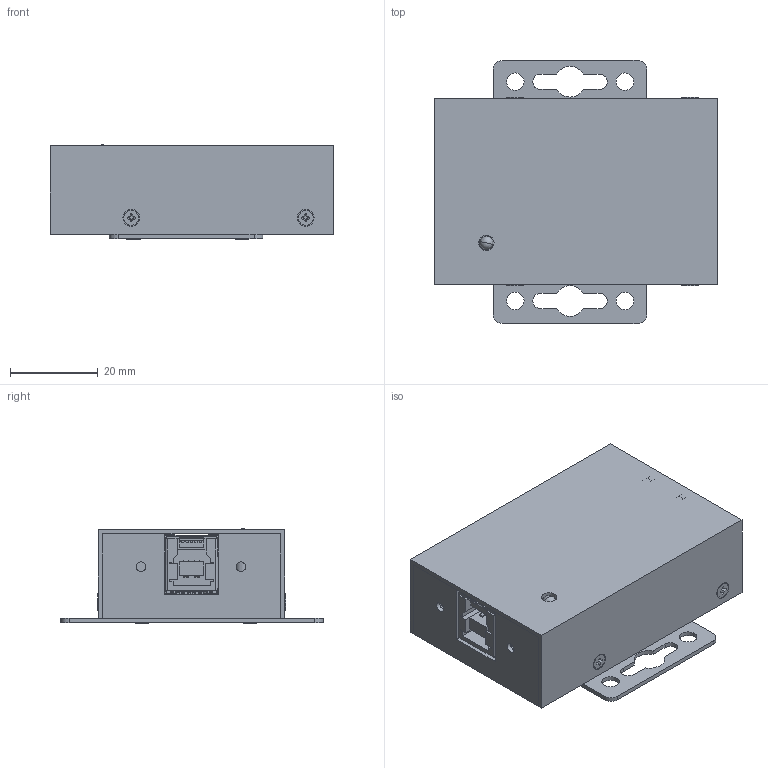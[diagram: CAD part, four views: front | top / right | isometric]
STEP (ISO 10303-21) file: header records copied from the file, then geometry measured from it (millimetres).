
FILE_DESCRIPTION(('FreeCAD Model'),'2;1');
FILE_NAME('Open CASCADE Shape Model','2025-05-20T12:54:11',(''),(''), 'Open CASCADE STEP processor 7.8','FreeCAD','Unknown');
FILE_SCHEMA(('AUTOMOTIVE_DESIGN { 1 0 10303 214 1 1 1 1 }'));
Length unit declared in the file: millimetre
Products named in the file (17): Unnamed; Case_down_1321; EX-1321_pcb; LED_green; 72w2466_1-406541-6; usb3_a-usb3_b; Case_up_1321; schraube_iso_7045-m2x5-4_8-h; dineniso7046-2m2x38_8h1#003; dineniso7046-2m2x38_8h1#004; dineniso7046-2m2x38_8h1#002; dineniso7046-2m2x38_8h1#001; Wandbefestigung_1321; schraube_iso_7046-1-m1_6x3-4_8-z#004; schraube_iso_7046-1-m1_6x3-4_8-z#002; schraube_iso_7046-1-m1_6x3-4_8-z#001; schraube_iso_7046-1-m1_6x3-4_8-z#003
Assembly tree (16 placements, depth 2):
  Unnamed
    Case_down_1321
    EX-1321_pcb
    LED_green
    72w2466_1-406541-6
    usb3_a-usb3_b
    Case_up_1321
    schraube_iso_7045-m2x5-4_8-h
    dineniso7046-2m2x38_8h1#003
    dineniso7046-2m2x38_8h1#004
    dineniso7046-2m2x38_8h1#002
    dineniso7046-2m2x38_8h1#001
    Wandbefestigung_1321
    schraube_iso_7046-1-m1_6x3-4_8-z#004
    schraube_iso_7046-1-m1_6x3-4_8-z#002
    schraube_iso_7046-1-m1_6x3-4_8-z#001
    schraube_iso_7046-1-m1_6x3-4_8-z#003
Bounding box: 64.7 x 60 x 21.57 mm (x, y, z)
Volume: 19536.1 mm3; surface area: 34519.8 mm2
Topology: 20 solids, 20 shells, 1501 faces, 4133 edges, 2707 vertices
Faces by surface type: plane 979, cylinder 353, cone 101, torus 60, sphere 4, bspline 4
Full cylindrical faces by diameter (mm): 2.2 x2, 2.4 x24, 2.6 x2, 3 x1, 3.5 x1, 4 x13, 5.2 x1
Entity records: 52836 total; most frequent: CARTESIAN_POINT 9777, ORIENTED_EDGE 8242, DIRECTION 7702, EDGE_CURVE 4121, LINE 2864, VECTOR 2864, VERTEX_POINT 2707, AXIS2_PLACEMENT_3D 2419
